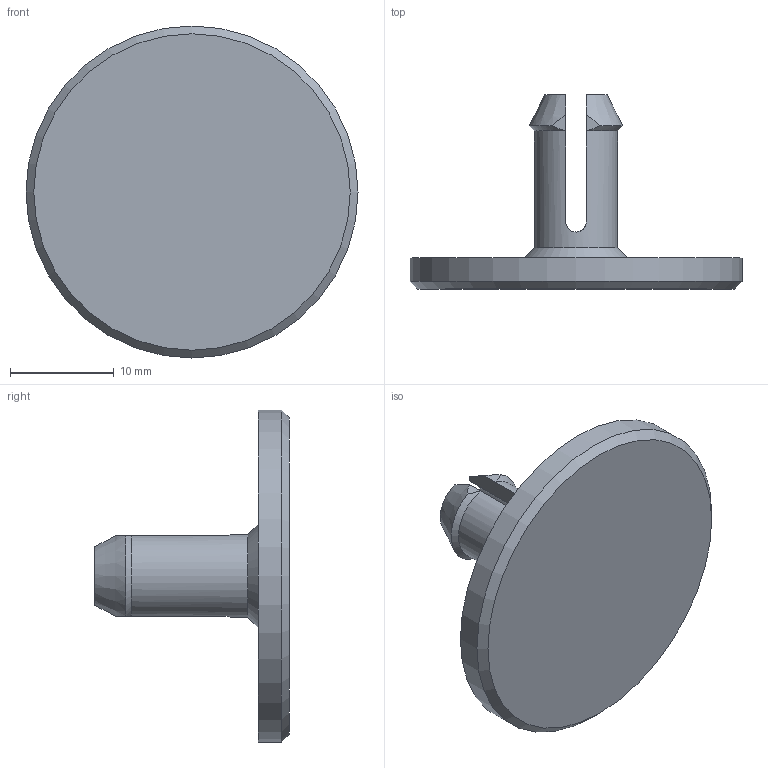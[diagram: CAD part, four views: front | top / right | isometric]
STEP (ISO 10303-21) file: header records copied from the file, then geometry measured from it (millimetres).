
FILE_DESCRIPTION(/* description */ (''),/* implementation_level */ '2;1');
FILE_NAME(/* name */ 'PokemonDrawers v2-middle2.step',/* time_stamp */ '2024-06-11T22:13:55+02:00',/* author */ (''),/* organization */ (''),/* preprocessor_version */ 'ST-DEVELOPER v20',/* originating_system */ 'Autodesk Translation Framework v13.14.0.145',/* authorisation */ '');
FILE_SCHEMA (('AUTOMOTIVE_DESIGN { 1 0 10303 214 3 1 1 }'));
Length unit declared in the file: millimetre
Products named in the file (2): PokemonDrawers; Component7
Assembly tree (1 placements, depth 2):
  PokemonDrawers
    Component7
Bounding box: 32 x 18.75 x 32 mm (x, y, z)
Volume: 2789.9 mm3; surface area: 2454.1 mm2
Topology: 1 solids, 1 shells, 24 faces, 58 edges, 37 vertices
Faces by surface type: plane 13, cone 6, cylinder 5
Full cylindrical faces by diameter (mm): 5 x1, 8 x1, 32 x1
Entity records: 796 total; most frequent: CARTESIAN_POINT 216, ORIENTED_EDGE 116, DIRECTION 109, EDGE_CURVE 58, AXIS2_PLACEMENT_3D 42, VERTEX_POINT 37, EDGE_LOOP 25, LINE 25
